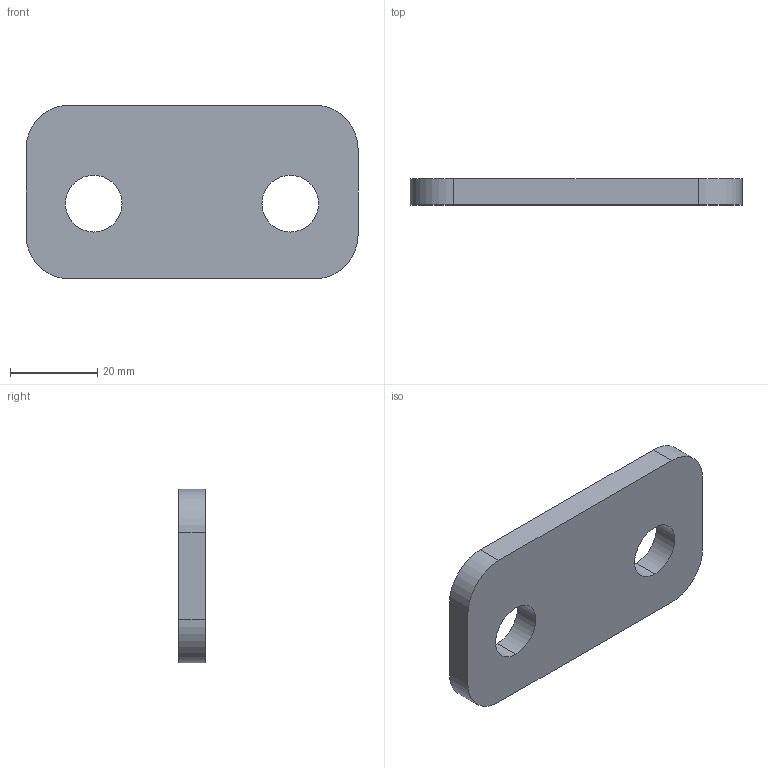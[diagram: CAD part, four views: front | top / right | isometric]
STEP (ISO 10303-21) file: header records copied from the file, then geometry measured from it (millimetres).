
FILE_DESCRIPTION (( 'STEP AP203' ), '1' );
FILE_NAME ('YYDK-150-0021 結啣.STEP', '2026-03-14T05:20:55', ( 'Windows 蚚誧' ), ( '' ), 'SwSTEP 2.0', 'SolidWorks 2020', '' );
FILE_SCHEMA (( 'CONFIG_CONTROL_DESIGN' ));
Length unit declared in the file: millimetre
Products named in the file (1): YYDK-150-0021 結啣
Bounding box: 76 x 6 x 39.74 mm (x, y, z)
Volume: 16013.6 mm3; surface area: 7113.8 mm2
Topology: 1 solids, 1 shells, 14 faces, 36 edges, 24 vertices
Faces by surface type: cylinder 8, plane 6
Entity records: 521 total; most frequent: DIRECTION 82, CARTESIAN_POINT 75, ORIENTED_EDGE 72, EDGE_CURVE 36, AXIS2_PLACEMENT_3D 31, VERTEX_POINT 24, VECTOR 20, LINE 20
